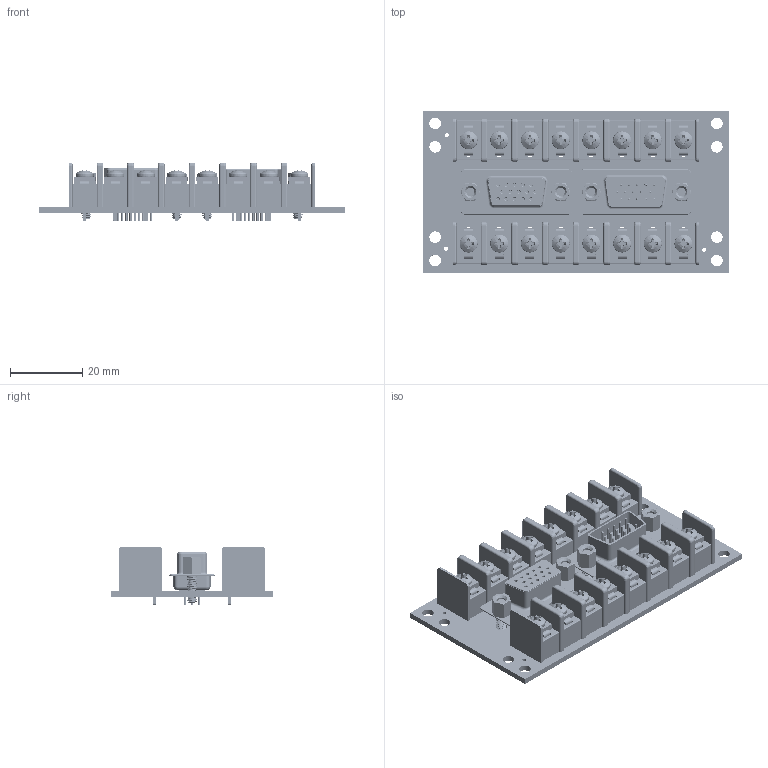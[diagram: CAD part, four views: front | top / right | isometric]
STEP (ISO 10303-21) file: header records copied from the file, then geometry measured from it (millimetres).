
FILE_DESCRIPTION(('FreeCAD Model'),'2;1');
FILE_NAME('Open CASCADE Shape Model','2025-07-16T22:09:37',(''),(''), 'Open CASCADE STEP processor 7.6','FreeCAD','Unknown');
FILE_SCHEMA(('AUTOMOTIVE_DESIGN { 1 0 10303 214 1 1 1 1 }'));
Length unit declared in the file: millimetre
Products named in the file (22): DE15MF-TB-V2; Local_CS_9236; Board_Geoms_9236; Pcb_9236; PCB_Sketch_9236; botSilks_8f52; topSilks_8286; Step_Models_9236; Top_9236; TB3_User Library-KF8500-4P_null; K8500 1S; K8500 Midlle Block; K8500 Wall; K8500 Pad; K8500 Washer; M3x6mm_92005A066; K8500 1S001; K8500 1S002; K8500 1S003; Male_DSUB-15-HD_Male_Vertical_P2.29x1.98mm_MountingHoles_null; Male_74m9499_5205818-2_null[2]; Female_DSUB-15-HD_Female_Vertical_P2.29x1.98mm_MountingHoles_null
Assembly tree (46 placements, depth 6):
  DE15MF-TB-V2
    Local_CS_9236
    Board_Geoms_9236
      Pcb_9236
      PCB_Sketch_9236
      botSilks_8f52
      topSilks_8286
    Step_Models_9236
      Top_9236
        TB3_User Library-KF8500-4P_null  x4
          K8500 1S
            K8500 Midlle Block
            K8500 Wall  x2
            K8500 Pad
            K8500 Washer
            M3x6mm_92005A066
          K8500 1S001
            K8500 Midlle Block
            K8500 Wall  x2
            K8500 Pad
            K8500 Washer
            M3x6mm_92005A066
          K8500 1S002
            K8500 Midlle Block
            K8500 Wall  x2
            K8500 Pad
            K8500 Washer
            M3x6mm_92005A066
          K8500 1S003
            K8500 Midlle Block
            K8500 Wall  x2
            K8500 Pad
            K8500 Washer
            M3x6mm_92005A066
        Male_DSUB-15-HD_Male_Vertical_P2.29x1.98mm_MountingHoles_null
        Male_74m9499_5205818-2_null[2]  x4
        Female_DSUB-15-HD_Female_Vertical_P2.29x1.98mm_MountingHoles_null
Bounding box: 85 x 45 x 16.3 mm (x, y, z)
Volume: 21723.6 mm3; surface area: 38200.7 mm2
Topology: 103 solids, 205 shells, 3586 faces, 23249 edges, 19737 vertices
Faces by surface type: cylinder 1588, plane 1430, bspline 240, cone 235, torus 77, sphere 8, revolution 8
Full cylindrical faces by diameter (mm): 0.64 x60, 0.853 x15, 1 x30, 1.152 x3, 1.7 x16, 3.2 x16
Entity records: 142616 total; most frequent: CARTESIAN_POINT 36776, DIRECTION 17791, ORIENTED_EDGE 17329, EDGE_CURVE 15717, LINE 14797, VECTOR 14797, VERTEX_POINT 14779, AXIS2_PLACEMENT_3D 1493
